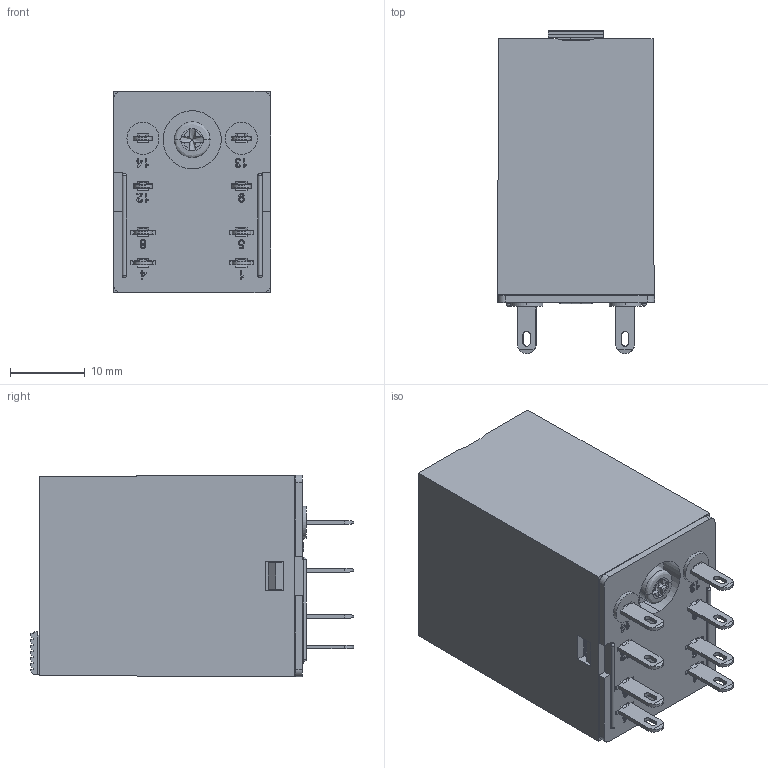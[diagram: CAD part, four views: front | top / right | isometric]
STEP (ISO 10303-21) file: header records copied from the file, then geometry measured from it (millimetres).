
FILE_DESCRIPTION (( 'STEP AP203' ), '1' );
FILE_NAME ('RKE2C 俋倛.STEP', '2023-01-14T05:39:40', ( '' ), ( '' ), 'SwSTEP 2.0', 'SolidWorks 2018', '' );
FILE_SCHEMA (( 'CONFIG_CONTROL_DESIGN' ));
Length unit declared in the file: millimetre
Products named in the file (1): RKE2C 俋倛
Bounding box: 21.05 x 43.39 x 27 mm (x, y, z)
Volume: 19680 mm3; surface area: 5555.5 mm2
Topology: 1 solids, 2 shells, 776 faces, 2109 edges, 1382 vertices
Faces by surface type: plane 566, cylinder 123, bspline 75, cone 4, sphere 4, torus 4
Entity records: 28313 total; most frequent: CARTESIAN_POINT 9061, ORIENTED_EDGE 4202, DIRECTION 3551, EDGE_CURVE 2101, VECTOR 1633, LINE 1633, VERTEX_POINT 1378, AXIS2_PLACEMENT_3D 959
